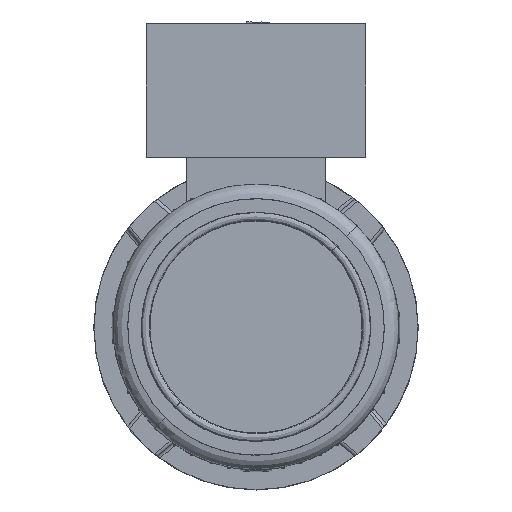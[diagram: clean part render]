
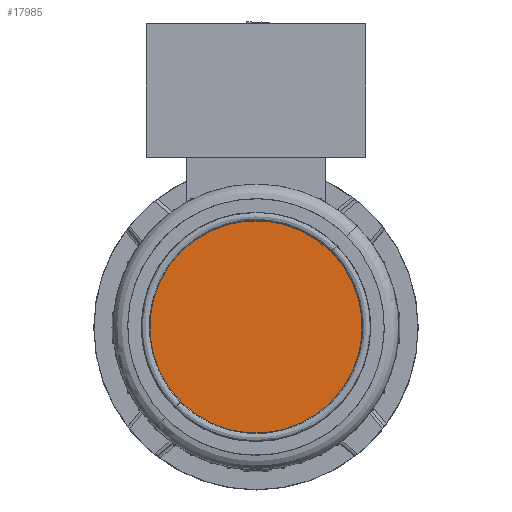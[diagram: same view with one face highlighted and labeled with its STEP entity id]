
A CAD part, top view. The second image highlights one B-rep face of the part: STEP entity #17985.
In plain terms, the highlighted planar face has unit normal (0, 0, 1).
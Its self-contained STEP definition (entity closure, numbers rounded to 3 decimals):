
#216 = EDGE_CURVE ( 'NONE', #15277, #34520, #15069, .T. ) ;
#3358 = DIRECTION ( 'NONE',  ( 0., 0., -1. ) ) ;
#3648 = DIRECTION ( 'NONE',  ( 0., 1., 0. ) ) ;
#6100 = ORIENTED_EDGE ( 'NONE', *, *, #216, .F. ) ;
#7708 = EDGE_CURVE ( 'NONE', #34520, #15277, #21813, .T. ) ;
#9060 = PLANE ( 'NONE',  #13402 ) ;
#11420 = DIRECTION ( 'NONE',  ( 0., 0., -1. ) ) ;
#13127 = CARTESIAN_POINT ( 'NONE',  ( -46.246, -46.246, 158.5 ) ) ;
#13402 = AXIS2_PLACEMENT_3D ( 'NONE', #32826, #3358, #29424 ) ;
#14287 = AXIS2_PLACEMENT_3D ( 'NONE', #26447, #26802, #32059 ) ;
#15069 = CIRCLE ( 'NONE', #14287, 65.402 ) ;
#15277 = VERTEX_POINT ( 'NONE', #13127 ) ;
#17985 = ADVANCED_FACE ( 'NONE', ( #23676 ), #9060, .F. ) ;
#21813 = CIRCLE ( 'NONE', #31277, 65.402 ) ;
#22352 = CARTESIAN_POINT ( 'NONE',  ( 0., 0., 158.5 ) ) ;
#23676 = FACE_OUTER_BOUND ( 'NONE', #25081, .T. ) ;
#25081 = EDGE_LOOP ( 'NONE', ( #6100, #31007 ) ) ;
#26447 = CARTESIAN_POINT ( 'NONE',  ( 0., 0., 158.5 ) ) ;
#26802 = DIRECTION ( 'NONE',  ( 0., 0., -1. ) ) ;
#29051 = CARTESIAN_POINT ( 'NONE',  ( 46.246, 46.246, 158.5 ) ) ;
#29424 = DIRECTION ( 'NONE',  ( 0., 1., 0. ) ) ;
#31007 = ORIENTED_EDGE ( 'NONE', *, *, #7708, .F. ) ;
#31277 = AXIS2_PLACEMENT_3D ( 'NONE', #22352, #11420, #3648 ) ;
#32059 = DIRECTION ( 'NONE',  ( 0., 1., 0. ) ) ;
#32826 = CARTESIAN_POINT ( 'NONE',  ( -46.246, 46.246, 158.5 ) ) ;
#34520 = VERTEX_POINT ( 'NONE', #29051 ) ;
